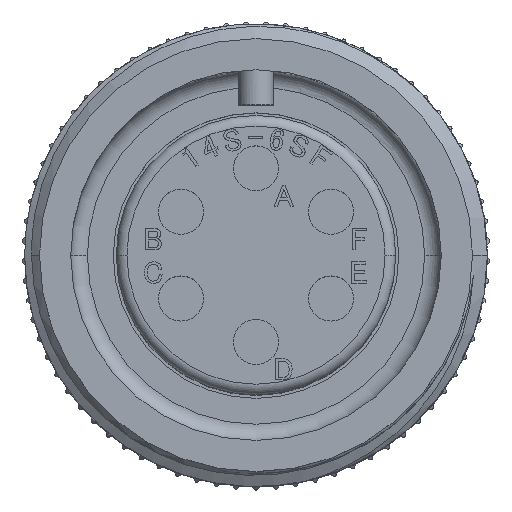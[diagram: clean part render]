
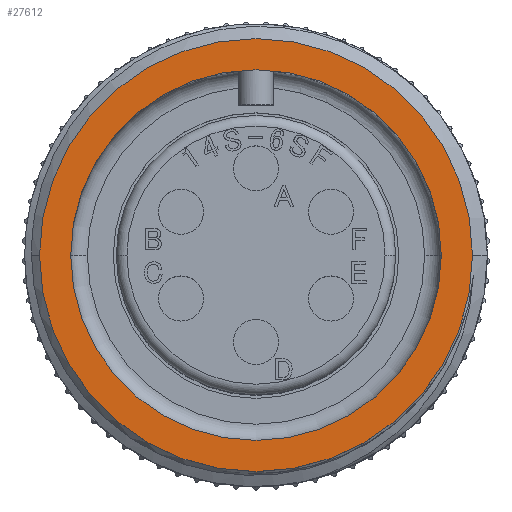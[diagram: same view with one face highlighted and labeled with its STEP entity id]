
A CAD part, top view. The second image highlights one B-rep face of the part: STEP entity #27612.
In plain terms, the highlighted planar face has unit normal (0, 0, 1).
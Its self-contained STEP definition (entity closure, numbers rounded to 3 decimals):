
#146 = CARTESIAN_POINT ( 'NONE',  ( 0., 0., 0. ) ) ;
#2914 = CARTESIAN_POINT ( 'NONE',  ( 0., 0., 0. ) ) ;
#3720 = DIRECTION ( 'NONE',  ( 0., 0., -1. ) ) ;
#4156 = CARTESIAN_POINT ( 'NONE',  ( 0., 0., 0. ) ) ;
#4457 = DIRECTION ( 'NONE',  ( 1., 0., 0. ) ) ;
#5252 = ORIENTED_EDGE ( 'NONE', *, *, #52528, .F. ) ;
#5847 = EDGE_CURVE ( 'NONE', #10335, #18473, #36577, .T. ) ;
#6586 = CIRCLE ( 'NONE', #25268, 8.67 ) ;
#7235 = DIRECTION ( 'NONE',  ( 1., 0., 0. ) ) ;
#8289 = ORIENTED_EDGE ( 'NONE', *, *, #5847, .T. ) ;
#8381 = VERTEX_POINT ( 'NONE', #43164 ) ;
#8494 = DIRECTION ( 'NONE',  ( 1., 0., 0. ) ) ;
#10335 = VERTEX_POINT ( 'NONE', #23132 ) ;
#11969 = EDGE_LOOP ( 'NONE', ( #41199, #8289 ) ) ;
#15877 = DIRECTION ( 'NONE',  ( 0., 0., 1. ) ) ;
#17661 = EDGE_LOOP ( 'NONE', ( #5252, #47616 ) ) ;
#18473 = VERTEX_POINT ( 'NONE', #25539 ) ;
#20945 = CARTESIAN_POINT ( 'NONE',  ( 8.67, 0., 0. ) ) ;
#22615 = FACE_OUTER_BOUND ( 'NONE', #11969, .T. ) ;
#23132 = CARTESIAN_POINT ( 'NONE',  ( -10.13, 0., 0. ) ) ;
#24952 = CARTESIAN_POINT ( 'NONE',  ( 0., 8.67, 0. ) ) ;
#25268 = AXIS2_PLACEMENT_3D ( 'NONE', #4156, #34326, #8494 ) ;
#25539 = CARTESIAN_POINT ( 'NONE',  ( 10.13, 0., 0. ) ) ;
#26246 = AXIS2_PLACEMENT_3D ( 'NONE', #24952, #3720, #33873 ) ;
#27612 = ADVANCED_FACE ( 'NONE', ( #44302, #22615 ), #29478, .F. ) ;
#29478 = PLANE ( 'NONE',  #26246 ) ;
#29518 = CIRCLE ( 'NONE', #47617, 8.67 ) ;
#30220 = DIRECTION ( 'NONE',  ( 0., 0., 1. ) ) ;
#30779 = VERTEX_POINT ( 'NONE', #20945 ) ;
#33061 = DIRECTION ( 'NONE',  ( 0., 0., 1. ) ) ;
#33873 = DIRECTION ( 'NONE',  ( -1., 0., 0. ) ) ;
#34326 = DIRECTION ( 'NONE',  ( 0., 0., 1. ) ) ;
#34702 = EDGE_CURVE ( 'NONE', #18473, #10335, #44525, .T. ) ;
#36577 = CIRCLE ( 'NONE', #45486, 10.13 ) ;
#41199 = ORIENTED_EDGE ( 'NONE', *, *, #34702, .T. ) ;
#41755 = CARTESIAN_POINT ( 'NONE',  ( 0., 0., 0. ) ) ;
#43164 = CARTESIAN_POINT ( 'NONE',  ( -8.67, 0., 0. ) ) ;
#44302 = FACE_BOUND ( 'NONE', #17661, .T. ) ;
#44525 = CIRCLE ( 'NONE', #47555, 10.13 ) ;
#45486 = AXIS2_PLACEMENT_3D ( 'NONE', #146, #30220, #4457 ) ;
#46118 = DIRECTION ( 'NONE',  ( 1., 0., 0. ) ) ;
#47555 = AXIS2_PLACEMENT_3D ( 'NONE', #41755, #15877, #46118 ) ;
#47616 = ORIENTED_EDGE ( 'NONE', *, *, #54428, .F. ) ;
#47617 = AXIS2_PLACEMENT_3D ( 'NONE', #2914, #33061, #7235 ) ;
#52528 = EDGE_CURVE ( 'NONE', #30779, #8381, #29518, .T. ) ;
#54428 = EDGE_CURVE ( 'NONE', #8381, #30779, #6586, .T. ) ;
